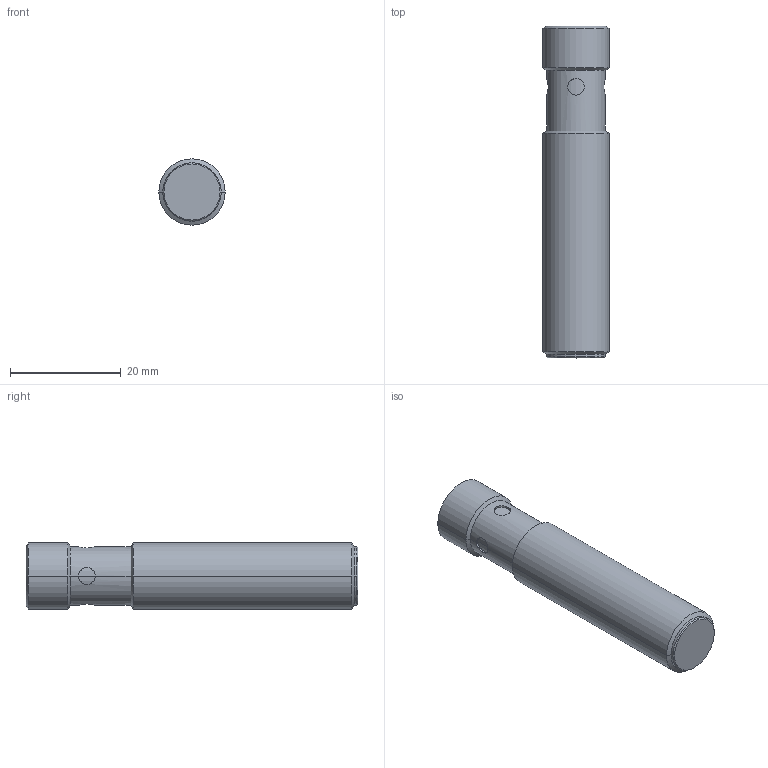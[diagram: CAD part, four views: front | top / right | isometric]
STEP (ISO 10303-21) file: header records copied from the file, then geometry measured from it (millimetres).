
FILE_DESCRIPTION((''),'2;1');
FILE_NAME('DW-AS-703-M12-673_SW0001','2017-03-27T',('stagiaire01rd'),(''),'PRO/ENGINEER BY PARAMETRIC TECHNOLOGY CORPORATION, 2016360','PRO/ENGINEER BY PARAMETRIC TECHNOLOGY CORPORATION, 2016360','');
FILE_SCHEMA(('CONFIG_CONTROL_DESIGN'));
Length unit declared in the file: millimetre
Products named in the file (1): DW-AS-703-M12-673_SW0001
Bounding box: 12 x 60 x 12 mm (x, y, z)
Surface area: 3149 mm2 (no closed solid volume)
Topology: 0 solids, 12 shells, 85 faces, 435 edges, 352 vertices
Faces by surface type: cylinder 33, plane 29, cone 14, sphere 8, bspline 1
Entity records: 4501 total; most frequent: CARTESIAN_POINT 1145, DIRECTION 653, ORIENTED_EDGE 598, EDGE_CURVE 425, VERTEX_POINT 352, VECTOR 313, LINE 313, AXIS2_PLACEMENT_3D 170
